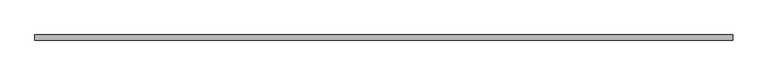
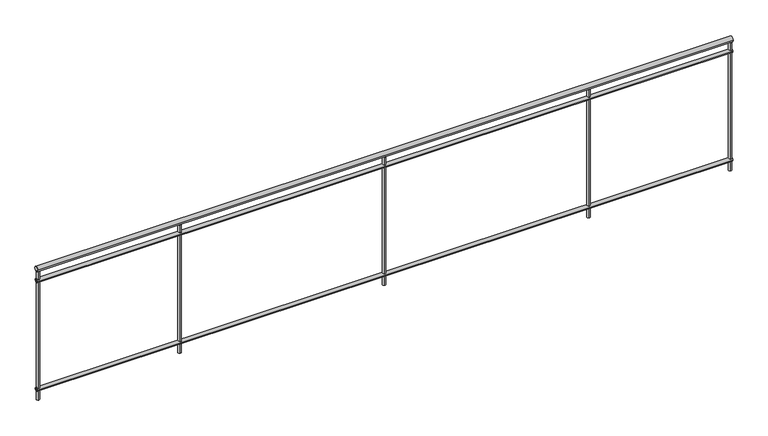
"""IFC4 building model written with IfcOpenShell, lengths in millimetres: railing geometry, バルコニー手摺."""

from ifc_helpers import new_model, si_unit, point, frame, frame_2d, origin, place, context, project, spatial, circle_curve, trimmed, segment, composite_curve, outline, extrude, source, transform, mapped, element, save


def railing_fb2e8326(model_context):
    return source(origin(), model_context, "Body", "SweptSolid", [
        extrude(outline(composite_curve([segment(trimmed(circle_curve(frame_2d((10035.2598658, 1980.0)), 20.0), [point((10055.2598658, 1980.0))], [point((10015.2598658, 1980.0))], False, "CARTESIAN"), True, "CONTINUOUS"), segment(trimmed(circle_curve(frame_2d((10035.2598658, 1980.0)), 20.0), [point((10015.2598658, 1980.0))], [point((10055.2598658, 1980.0))], False, "CARTESIAN"), True, "CONTINUOUS")], self_intersect=False)), frame((3414.3805905, 0.0, 0.0), z_axis=(1.0, 0.0, 0.0), x_axis=(0.0, 1.0, 0.0)), (0.0, 0.0, 1.0), 5440.0),
        extrude(outline(composite_curve([segment(trimmed(circle_curve(frame_2d((10035.2598658, 1885.0)), 15.0), [point((10050.2598658, 1885.0))], [point((10020.2598658, 1885.0))], False, "CARTESIAN"), True, "CONTINUOUS"), segment(trimmed(circle_curve(frame_2d((10035.2598658, 1885.0)), 15.0), [point((10020.2598658, 1885.0))], [point((10050.2598658, 1885.0))], False, "CARTESIAN"), True, "CONTINUOUS")], self_intersect=False)), frame((3414.3805905, 0.0, 0.0), z_axis=(1.0, 0.0, 0.0), x_axis=(0.0, 1.0, 0.0)), (0.0, 0.0, 1.0), 5440.0),
        extrude(outline(composite_curve([segment(trimmed(circle_curve(frame_2d((10035.2598658, 985.0)), 15.0), [point((10050.2598658, 985.0))], [point((10020.2598658, 985.0))], False, "CARTESIAN"), True, "CONTINUOUS"), segment(trimmed(circle_curve(frame_2d((10035.2598658, 985.0)), 15.0), [point((10020.2598658, 985.0))], [point((10050.2598658, 985.0))], False, "CARTESIAN"), True, "CONTINUOUS")], self_intersect=False)), frame((3414.3805905, 0.0, 0.0), z_axis=(1.0, 0.0, 0.0), x_axis=(0.0, 1.0, 0.0)), (0.0, 0.0, 1.0), 5440.0),
        extrude(outline(composite_curve([segment(trimmed(circle_curve(frame_2d((7734.3805905, 10035.2598658)), 12.5), [point((7734.3805905, 10047.7598658))], [point((7734.3805905, 10022.7598658))], False, "CARTESIAN"), True, "CONTINUOUS"), segment(trimmed(circle_curve(frame_2d((7734.3805905, 10035.2598658)), 12.5), [point((7734.3805905, 10022.7598658))], [point((7734.3805905, 10047.7598658))], False, "CARTESIAN"), True, "CONTINUOUS")], self_intersect=False)), frame((0.0, 0.0, 900.0), z_axis=(0.0, 0.0, 1.0), x_axis=(1.0, 0.0, 0.0)), (0.0, 0.0, 1.0), 1060.0),
        extrude(outline(composite_curve([segment(trimmed(circle_curve(frame_2d((6134.3805905, 10035.2598658)), 12.5), [point((6134.3805905, 10047.7598658))], [point((6134.3805905, 10022.7598658))], False, "CARTESIAN"), True, "CONTINUOUS"), segment(trimmed(circle_curve(frame_2d((6134.3805905, 10035.2598658)), 12.5), [point((6134.3805905, 10022.7598658))], [point((6134.3805905, 10047.7598658))], False, "CARTESIAN"), True, "CONTINUOUS")], self_intersect=False)), frame((0.0, 0.0, 900.0), z_axis=(0.0, 0.0, 1.0), x_axis=(1.0, 0.0, 0.0)), (0.0, 0.0, 1.0), 1060.0),
        extrude(outline(composite_curve([segment(trimmed(circle_curve(frame_2d((4534.3805905, 10035.2598658)), 12.5), [point((4534.3805905, 10047.7598658))], [point((4534.3805905, 10022.7598658))], False, "CARTESIAN"), True, "CONTINUOUS"), segment(trimmed(circle_curve(frame_2d((4534.3805905, 10035.2598658)), 12.5), [point((4534.3805905, 10022.7598658))], [point((4534.3805905, 10047.7598658))], False, "CARTESIAN"), True, "CONTINUOUS")], self_intersect=False)), frame((0.0, 0.0, 900.0), z_axis=(0.0, 0.0, 1.0), x_axis=(1.0, 0.0, 0.0)), (0.0, 0.0, 1.0), 1060.0),
        extrude(outline(composite_curve([segment(trimmed(circle_curve(frame_2d((8842.1805905, 10035.2598658)), 12.5), [point((8842.1805905, 10047.7598658))], [point((8842.1805905, 10022.7598658))], False, "CARTESIAN"), True, "CONTINUOUS"), segment(trimmed(circle_curve(frame_2d((8842.1805905, 10035.2598658)), 12.5), [point((8842.1805905, 10022.7598658))], [point((8842.1805905, 10047.7598658))], False, "CARTESIAN"), True, "CONTINUOUS")], self_intersect=False)), frame((0.0, 0.0, 900.0), z_axis=(0.0, 0.0, 1.0), x_axis=(1.0, 0.0, 0.0)), (0.0, 0.0, 1.0), 1060.0),
        extrude(outline(composite_curve([segment(trimmed(circle_curve(frame_2d((3426.5805905, 10035.2598658)), 12.5), [point((3426.5805905, 10047.7598658))], [point((3426.5805905, 10022.7598658))], False, "CARTESIAN"), True, "CONTINUOUS"), segment(trimmed(circle_curve(frame_2d((3426.5805905, 10035.2598658)), 12.5), [point((3426.5805905, 10022.7598658))], [point((3426.5805905, 10047.7598658))], False, "CARTESIAN"), True, "CONTINUOUS")], self_intersect=False)), frame((0.0, 0.0, 900.0), z_axis=(0.0, 0.0, 1.0), x_axis=(1.0, 0.0, 0.0)), (0.0, 0.0, 1.0), 1060.0),
    ])


if __name__ == "__main__":
    model = new_model("IFC4")
    model_context = context("Model", 3, world=origin())
    ifc_project = project(units=[si_unit("LENGTHUNIT", "METRE", prefix="MILLI")], contexts=[model_context])
    site = spatial("IfcSite", under=ifc_project)
    building = spatial("IfcBuilding", under=site)
    placement = place(None, origin())
    railing_shape = railing_fb2e8326(model_context)
    element("IfcRailing", 1, ObjectType="バルコニー手摺", at=placement, inside=building, context=model_context, shape_type="MappedRepresentation", body=[
        mapped(railing_shape, transform((0.0, 0.0, 0.0), x_axis=(1.0, 0.0, 0.0), y_axis=(0.0, 1.0, 0.0), z_axis=(0.0, 0.0, 1.0))),
    ])
    save(model, "model.ifc")
